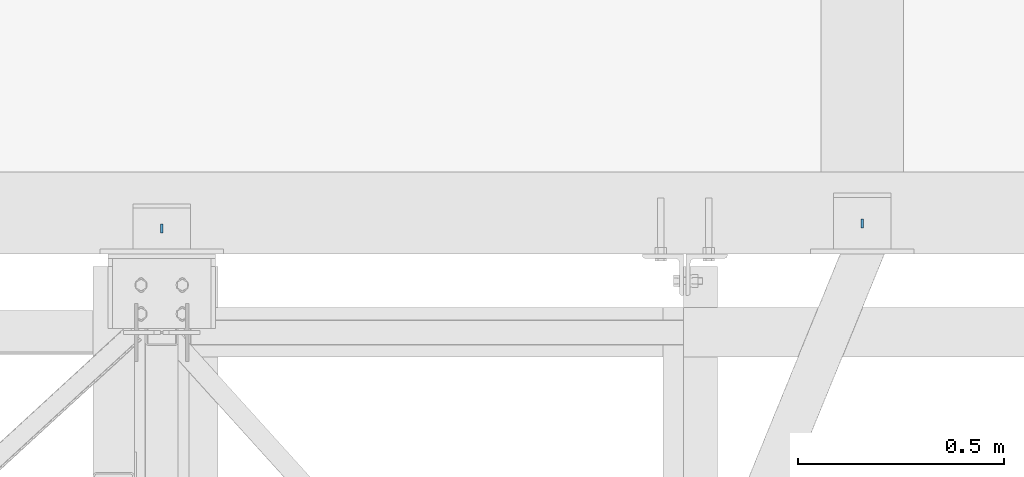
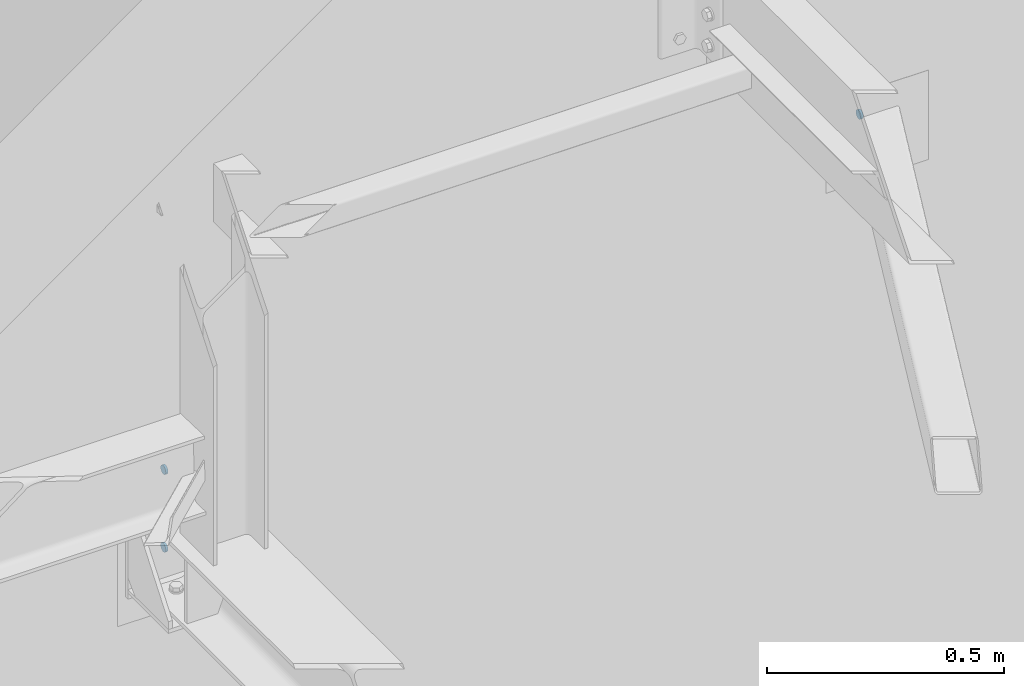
# One storey, part 105 of 123: 3 mechanical fasteners, 2 elements without a shape of their own.
"""IFC2X3 building model written with IfcOpenShell, lengths in millimetres."""

from ifc_helpers import new_model, si_unit, frame, origin_with_axes, origin_2d_with_axis, place, context, subcontext, project, spatial, circle, extrude, source, transform, mapped, material, type_object, element, aggregate, save


model = new_model("IFC2X3")

# Units and contexts
model_context = context("Model", 3, precision=1e-05, world=origin_with_axes())
body_context = subcontext(model_context, "Body", "Model", "MODEL_VIEW")
ifc_project = project(units=[si_unit("LENGTHUNIT", "METRE", prefix="MILLI"), si_unit("AREAUNIT", "SQUARE_METRE"), si_unit("VOLUMEUNIT", "CUBIC_METRE"), si_unit("MASSUNIT", "GRAM", prefix="KILO"), si_unit("TIMEUNIT", "SECOND"), si_unit("PLANEANGLEUNIT", "RADIAN"), si_unit("SOLIDANGLEUNIT", "STERADIAN"), si_unit("THERMODYNAMICTEMPERATUREUNIT", "DEGREE_CELSIUS"), si_unit("LUMINOUSINTENSITYUNIT", "LUMEN")], contexts=[model_context])

# Site, building, storey
site_placement = place(None, origin_with_axes())
site = spatial("IfcSite", under=ifc_project, at=site_placement, Name="Undefined", CompositionType="ELEMENT")
building_placement = place(site_placement, origin_with_axes())
building = spatial("IfcBuilding", under=site, at=building_placement, Name="Undefined", CompositionType="ELEMENT")
storey_placement = place(building_placement, origin_with_axes())
storey = spatial("IfcBuildingStorey", under=building, at=storey_placement, Name="Undefined", CompositionType="ELEMENT", Elevation=0.0)

# Assembly, mechanical fastener
assembly_1_placement = place(storey_placement, origin_with_axes())
assembly_1 = element("IfcElementAssembly", 1, at=assembly_1_placement, inside=storey, Name="Steel Assembly", AssemblyPlace="NOTDEFINED", PredefinedType="RIGID_FRAME")
ifc_material = material(Name="6.8")
discrete_accessory_type = type_object("IfcDiscreteAccessoryType", Name="Bolt assembly")
shared_shape = source(origin_with_axes(), body_context, "Body", "SweptSolid", [
    extrude(circle(Radius=11.0, at=origin_2d_with_axis()), frame((0.0, -2.75000000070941, 0.0), z_axis=(0.0, 1.0, 0.0), x_axis=(1.0, 0.0, 0.0)), (0.0, 0.0, 1.0), 5.6),
])
mechanical_fastener_1_placement = place(assembly_1_placement, frame((14380.0000018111, 15464.4999998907, 7591.7), z_axis=(0.0, 0.0, 1.0), x_axis=(0.0, -1.0, 0.0)))
mechanical_fastener_1 = element("IfcMechanicalFastener", 2, at=mechanical_fastener_1_placement, type_object=discrete_accessory_type, material=ifc_material, Name="Bolt assembly", NominalDiameter=20.0, NominalLength=5.5, context=body_context, shape_type="MappedRepresentation", body=[
    mapped(shared_shape, transform((0.0, 0.0, 0.0))),
])
aggregate(assembly_1, [mechanical_fastener_1])

# Assembly, mechanical fasteners
assembly_2_placement = place(storey_placement, origin_with_axes())
assembly_2 = element("IfcElementAssembly", 3, at=assembly_2_placement, inside=storey, Name="Steel Assembly", AssemblyPlace="NOTDEFINED", PredefinedType="RIGID_FRAME")
mechanical_fastener_2_placement = place(assembly_2_placement, frame((12680.0000000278, 15451.999999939, 7079.99830350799), z_axis=(0.0, 0.0, 1.0), x_axis=(0.0, -1.0, 0.0)))
mechanical_fastener_2 = element("IfcMechanicalFastener", 4, at=mechanical_fastener_2_placement, type_object=discrete_accessory_type, material=ifc_material, Name="Bolt assembly", NominalDiameter=20.0, NominalLength=5.5, context=body_context, shape_type="MappedRepresentation", body=[
    mapped(shared_shape, transform((0.0, 0.0, 0.0))),
])
mechanical_fastener_3_placement = place(assembly_2_placement, frame((12680.0000000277, 15451.9999999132, 7279.99830350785), z_axis=(0.0, 0.0, 1.0), x_axis=(0.0, -1.0, 0.0)))
mechanical_fastener_3 = element("IfcMechanicalFastener", 5, at=mechanical_fastener_3_placement, type_object=discrete_accessory_type, material=ifc_material, Name="Bolt assembly", NominalDiameter=20.0, NominalLength=5.5, context=body_context, shape_type="MappedRepresentation", body=[
    mapped(shared_shape, transform((0.0, 0.0, 0.0))),
])
aggregate(assembly_2, [mechanical_fastener_2, mechanical_fastener_3])

save(model, "model.ifc")
